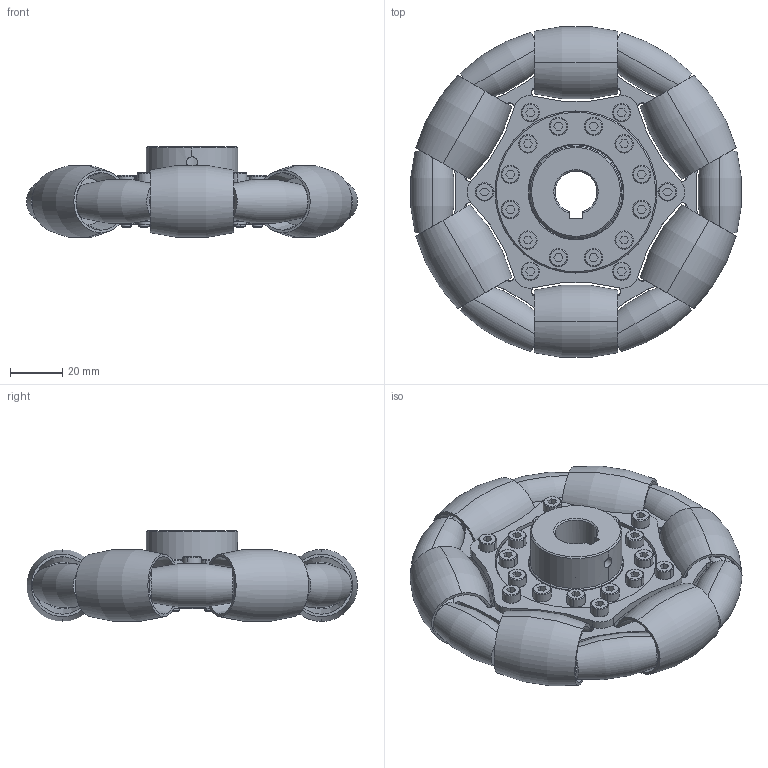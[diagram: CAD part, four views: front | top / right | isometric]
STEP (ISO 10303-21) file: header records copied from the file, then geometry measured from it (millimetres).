
FILE_DESCRIPTION (( 'STEP AP214' ), '1' );
FILE_NAME ('127mm单片轮组装图.STEP', '2017-04-28T06:24:49', ( '微软用户' ), ( '微软中国' ), 'SwSTEP 2.0', 'SolidWorks 2015', '' );
FILE_SCHEMA (( 'AUTOMOTIVE_DESIGN' ));
Length unit declared in the file: millimetre
Products named in the file (13): 湮謫; 127mm等え謫郪蚾芞; 薊粣ん; M3嶺隊; 戚芛蹟佪M4X16; 嘐隅え; 戚芛蹟佪M4 ; 滅侂蹟譫M4; 謫殤3; 謫殤2; 笢陑璃; 謫殤1; 苤謫
Assembly tree (85 placements, depth 2):
  127mm等え謫郪蚾芞
    湮謫  x6
    苤謫  x6
    謫殤1  x6
    笢陑璃
    謫殤2  x6
    謫殤3  x6
    滅侂蹟譫M4  x18
    戚芛蹟佪M4   x16
    嘐隅え
    戚芛蹟佪M4X16  x6
    M3嶺隊  x12
    薊粣ん
Bounding box: 126.53 x 126.54 x 34.77 mm (x, y, z)
Volume: 166496.9 mm3; surface area: 112822.8 mm2
Topology: 85 solids, 85 shells, 2166 faces, 5293 edges, 3406 vertices
Faces by surface type: plane 943, cylinder 866, cone 249, torus 108
Entity records: 12963 total; most frequent: DIRECTION 2299, CARTESIAN_POINT 2195, ORIENTED_EDGE 1906, EDGE_CURVE 953, AXIS2_PLACEMENT_3D 904, VERTEX_POINT 620, LINE 491, VECTOR 491
